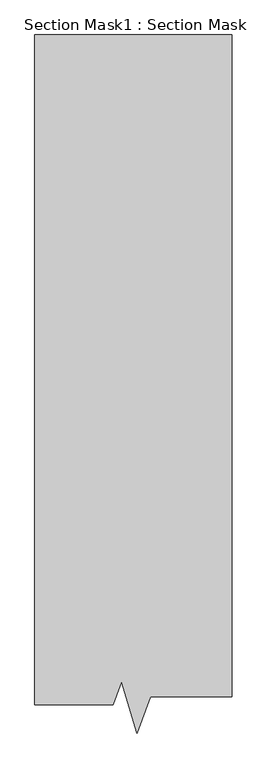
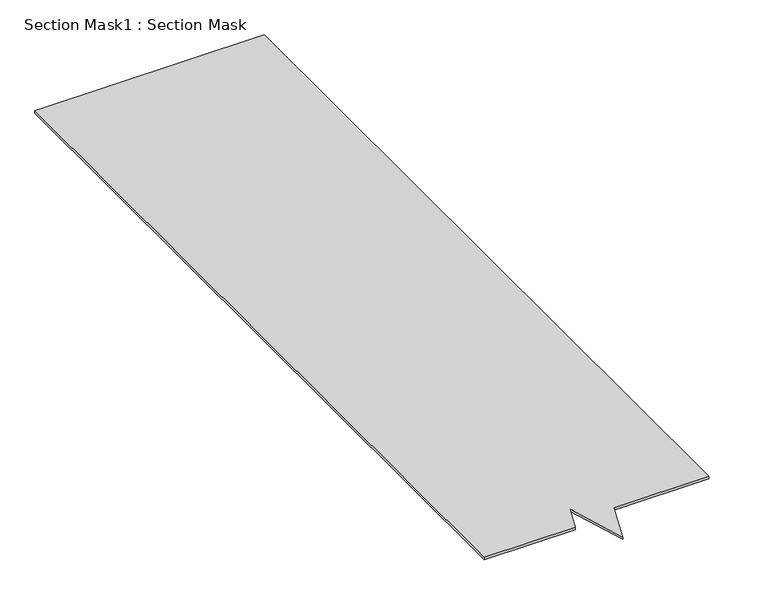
"""IFC4 building model written with IfcOpenShell, lengths in millimetres: proxy geometry, Section Mask1 : Section Mask."""

from ifc_helpers import new_model, si_unit, frame, origin, place, context, project, spatial, polyline, outline, extrude, source, transform, mapped, element, save


def section_mask1_section_mask_b22d5716(model_context):
    return source(origin(), model_context, "Body", "SweptSolid", [
        extrude(outline(polyline([(8124.664325, 631.273934), (7910.07559, 631.273934), (7910.07559, 2465.4614947), (8451.0233912, 2465.4614947), (8451.0233912, 652.1224056), (8227.2982256, 652.1224056), (8190.6813689, 552.9595639), (8147.6812645, 693.6065681), (8124.664325, 631.273934)])), frame((0.0, 0.0, 45.0273345), z_axis=(0.0, 0.0, 1.0), x_axis=(1.0, 0.0, 0.0)), (0.0, 0.0, 1.0), 5.6926241),
    ])


if __name__ == "__main__":
    model = new_model("IFC4")
    model_context = context("Model", 3, world=origin())
    ifc_project = project(units=[si_unit("LENGTHUNIT", "METRE", prefix="MILLI")], contexts=[model_context])
    site = spatial("IfcSite", under=ifc_project)
    building = spatial("IfcBuilding", under=site)
    placement = place(None, origin())
    section_mask1_section_mask_shape = section_mask1_section_mask_b22d5716(model_context)
    element("IfcBuildingElementProxy", 1, Name="Section Mask1 : Section Mask", ObjectType="Section Mask1 : Section Mask", at=placement, inside=building, context=model_context, shape_type="MappedRepresentation", body=[
        mapped(section_mask1_section_mask_shape, transform((0.0, 0.0, 0.0), x_axis=(1.0, 0.0, 0.0), y_axis=(0.0, 1.0, 0.0), z_axis=(0.0, 0.0, 1.0))),
    ])
    save(model, "model.ifc")
